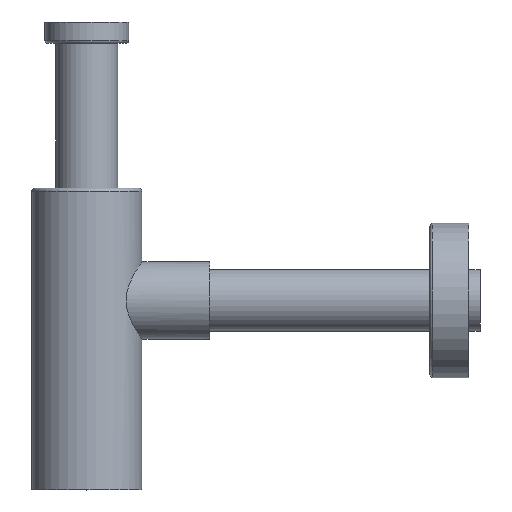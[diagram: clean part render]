
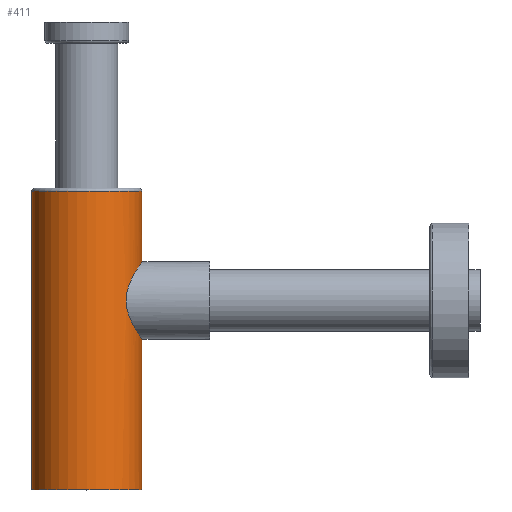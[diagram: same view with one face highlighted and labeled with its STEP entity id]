
A CAD part, top view. The second image highlights one B-rep face of the part: STEP entity #411.
In plain terms, the highlighted cylindrical face has radius 28.5 mm (diameter 57 mm), a partial arc.
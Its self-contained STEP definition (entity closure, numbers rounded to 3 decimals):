
#1=CARTESIAN_POINT('',(0.,154.5,0.));
#2=DIRECTION('',(0.,1.,0.));
#3=DIRECTION('',(-1.,0.,0.));
#4=AXIS2_PLACEMENT_3D('',#1,#2,#3);
#6=DIRECTION('',(0.,1.,0.));
#7=VECTOR('',#6,36.5);
#8=CARTESIAN_POINT('',(28.5,118.,0.));
#9=LINE('',#8,#7);
#10=CARTESIAN_POINT('',(28.5,118.,0.));
#11=CARTESIAN_POINT('',(28.5,118.,0.702));
#12=CARTESIAN_POINT('',(28.448,117.926,2.108));
#13=CARTESIAN_POINT('',(28.214,117.591,4.212));
#14=CARTESIAN_POINT('',(27.82,117.02,6.313));
#15=CARTESIAN_POINT('',(27.263,116.199,8.398));
#16=CARTESIAN_POINT('',(26.545,115.108,10.448));
#17=CARTESIAN_POINT('',(25.676,113.732,12.431));
#18=CARTESIAN_POINT('',(24.687,112.068,14.29));
#19=CARTESIAN_POINT('',(23.641,110.15,15.953));
#20=CARTESIAN_POINT('',(22.638,108.072,17.336));
#21=CARTESIAN_POINT('',(21.774,105.948,18.401));
#22=CARTESIAN_POINT('',(21.103,103.862,19.161));
#23=CARTESIAN_POINT('',(20.636,101.852,19.66));
#24=CARTESIAN_POINT('',(20.364,99.909,19.94));
#25=CARTESIAN_POINT('',(20.274,97.999,20.03));
#26=CARTESIAN_POINT('',(20.363,96.092,19.94));
#27=CARTESIAN_POINT('',(20.636,94.148,19.66));
#28=CARTESIAN_POINT('',(21.103,92.137,19.161));
#29=CARTESIAN_POINT('',(21.774,90.052,18.401));
#30=CARTESIAN_POINT('',(22.638,87.929,17.337));
#31=CARTESIAN_POINT('',(23.642,85.848,15.952));
#32=CARTESIAN_POINT('',(24.687,83.931,14.29));
#33=CARTESIAN_POINT('',(25.677,82.267,12.429));
#34=CARTESIAN_POINT('',(26.546,80.891,10.447));
#35=CARTESIAN_POINT('',(27.264,79.801,8.397));
#36=CARTESIAN_POINT('',(27.82,78.979,6.312));
#37=CARTESIAN_POINT('',(28.214,78.409,4.211));
#38=CARTESIAN_POINT('',(28.448,78.074,2.107));
#39=CARTESIAN_POINT('',(28.5,78.,0.701));
#40=CARTESIAN_POINT('',(28.5,78.,0.));
#42=DIRECTION('',(0.,1.,0.));
#43=VECTOR('',#42,78.);
#44=CARTESIAN_POINT('',(28.5,0.,0.));
#45=LINE('',#44,#43);
#46=CARTESIAN_POINT('',(0.,0.,0.));
#47=DIRECTION('',(0.,-1.,0.));
#48=DIRECTION('',(1.,0.,0.));
#49=AXIS2_PLACEMENT_3D('',#46,#47,#48);
#51=DIRECTION('',(0.,1.,0.));
#52=VECTOR('',#51,154.5);
#53=CARTESIAN_POINT('',(-28.5,0.,0.));
#54=LINE('',#53,#52);
#95=CARTESIAN_POINT('',(28.5,78.,0.));
#125=CARTESIAN_POINT('',(28.5,118.,0.));
#315=CARTESIAN_POINT('',(28.5,0.,0.));
#316=CARTESIAN_POINT('',(-28.5,0.,0.));
#317=VERTEX_POINT('',#315);
#318=VERTEX_POINT('',#316);
#323=VERTEX_POINT('',#95);
#324=VERTEX_POINT('',#125);
#349=CARTESIAN_POINT('',(28.5,154.5,0.));
#350=CARTESIAN_POINT('',(-28.5,154.5,0.));
#351=VERTEX_POINT('',#349);
#352=VERTEX_POINT('',#350);
#393=CARTESIAN_POINT('',(0.,-7.8,0.));
#394=DIRECTION('',(0.,1.,0.));
#395=DIRECTION('',(1.,0.,0.));
#396=AXIS2_PLACEMENT_3D('',#393,#394,#395);
#397=CYLINDRICAL_SURFACE('',#396,28.5);
#399=ORIENTED_EDGE('',*,*,#398,.T.);
#401=ORIENTED_EDGE('',*,*,#400,.F.);
#403=ORIENTED_EDGE('',*,*,#402,.T.);
#405=ORIENTED_EDGE('',*,*,#404,.F.);
#406=ORIENTED_EDGE('',*,*,#386,.T.);
#408=ORIENTED_EDGE('',*,*,#407,.T.);
#409=EDGE_LOOP('',(#399,#401,#403,#405,#406,#408));
#410=FACE_OUTER_BOUND('',#409,.F.);
#411=ADVANCED_FACE('',(#410),#397,.T.);
#5=CIRCLE('',#4,28.5);
#41=B_SPLINE_CURVE_WITH_KNOTS('',3,(#10,#11,#12,#13,#14,#15,#16,#17,#18,#19,#20,
#21,#22,#23,#24,#25,#26,#27,#28,#29,#30,#31,#32,#33,#34,#35,#36,#37,#38,#39,
#40),.UNSPECIFIED.,.F.,.F.,(4,1,1,1,1,1,1,1,1,1,1,1,1,1,1,1,1,1,1,1,1,1,1,1,1,1,
1,1,4),(0.,0.036,0.071,0.107,
0.143,0.179,0.214,0.25,0.286,
0.321,0.357,0.393,0.429,
0.464,0.5,0.536,0.571,0.607,
0.643,0.679,0.714,0.75,0.786,
0.821,0.857,0.893,0.929,
0.964,1.),.UNSPECIFIED.);
#50=CIRCLE('',#49,28.5);
#386=EDGE_CURVE('',#317,#318,#50,.T.);
#398=EDGE_CURVE('',#352,#351,#5,.T.);
#400=EDGE_CURVE('',#324,#351,#9,.T.);
#402=EDGE_CURVE('',#324,#323,#41,.T.);
#404=EDGE_CURVE('',#317,#323,#45,.T.);
#407=EDGE_CURVE('',#318,#352,#54,.T.);
